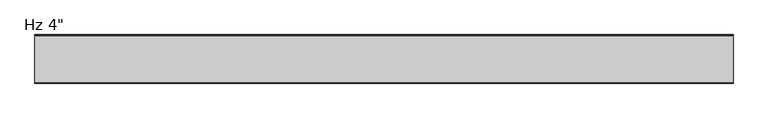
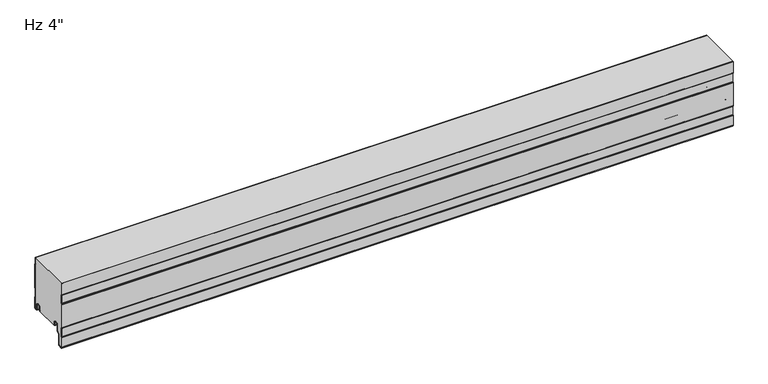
"""IFC4 building model written with IfcOpenShell, lengths in millimetres: plate geometry."""

from ifc_helpers import new_model, si_unit, point, frame, frame_2d, origin, place, context, project, spatial, polyline, circle_curve, trimmed, segment, composite_curve, outline, extrude, source, transform, mapped, element, save
from ifc_brep_helpers import plane_surface, cylinder_surface, revolved_surface, advanced_brep


def plate_19a01b62(model_context):
    return source(origin(), model_context, "Body", "SolidModel", [
        advanced_brep(
        [(-730.0, -17.0015159, 2.0313088), (-730.0, -18.0015191, 1.0313116), (-730.0, -19.0015105, 2.0313088), (-730.0, -19.0015105, 6.0315125), (-730.0, -18.0015159, 6.0315125), (-730.0, -18.0015159, 8.7237223), (-730.0, -14.7015202, 12.023718), (-730.0, -10.301529, 12.023718), (-730.0, -7.0015335, 8.7237225), (-730.0, -7.0015335, -1.6962564), (-730.0, -5.2315393, -3.4662506), (-730.0, -0.9999916, -3.4662506), (-730.0, -0.9999916, 21.034026), (-730.0, -2.2002307, 22.4196686), (-730.0, -2.2002307, 41.7948349), (-730.0, -1.0, 43.1804679), (-730.0, -1.0, 97.2338833), (-730.0, -2.2002307, 98.6195162), (-730.0, -2.2002307, 114.0), (-730.0, -1.2002307, 114.0), (-730.0, -1.2002307, 98.9923967), (-730.0, -0.3417885, 98.001349), (-730.0, 0.0, 97.0847321), (-730.0, 0.0, 43.329619), (-730.0, -0.3417885, 42.4130021), (-730.0, -1.2002307, 41.4219545), (-730.0, -1.2002307, 22.7925491), (-730.0, -0.3417885, 21.8015014), (-730.0, 0.0, 20.8847931), (-730.0, 8.4e-06, -3.0662545), (-730.0, -1.3999878, -4.4662506), (-730.0, -5.2315393, -4.4662506), (-730.0, -8.0015335, -1.6962564), (-730.0, -8.0015335, 8.7237225), (-730.0, -10.301529, 11.023718), (-730.0, -14.7015202, 11.023718), (-730.0, -17.0015159, 8.7237223), (730.0, -17.0015159, 2.0313088), (730.0, -17.0015159, 8.7237223), (730.0, -14.7015202, 11.023718), (730.0, -10.301529, 11.023718), (730.0, -8.0015335, 8.7237225), (730.0, -8.0015335, -1.6962564), (730.0, -5.2315393, -4.4662506), (730.0, -1.3999878, -4.4662506), (730.0, 8.4e-06, -3.0662545), (730.0, 8.4e-06, 20.8848845), (730.0, -0.3417885, 21.8015014), (730.0, -1.2002307, 22.7925491), (730.0, -1.2002307, 41.4219545), (730.0, -0.3417885, 42.4130021), (730.0, 0.0, 43.329619), (730.0, 0.0, 97.0847321), (730.0, -0.3417885, 98.001349), (730.0, -1.2002307, 98.9923967), (730.0, -1.2002307, 114.0), (730.0, -2.2002307, 114.0), (730.0, -2.2002307, 98.6195162), (730.0, -1.0, 97.2338833), (730.0, -1.0, 43.1804679), (730.0, -2.2002307, 41.7948349), (730.0, -2.2002307, 22.4196686), (730.0, -0.9999916, 21.034026), (730.0, -0.9999916, -3.4662506), (730.0, -5.2315393, -3.4662506), (730.0, -7.0015335, -1.6962564), (730.0, -7.0015335, 8.7237225), (730.0, -10.301529, 12.023718), (730.0, -14.7015202, 12.023718), (730.0, -18.0015159, 8.7237223), (730.0, -18.0015159, 6.0315125), (730.0, -19.0015105, 6.0315125), (730.0, -19.0015105, 2.0313088), (730.0, -18.0015192, 1.0313116)],
        [
            (0, 1, circle_curve(frame((-730.0, -18.0015132, 2.0313088), z_axis=(-1.0, 0.0, 0.0), x_axis=(0.0, 0.0, 1.0)), 0.9999973)),
            (1, 2, circle_curve(frame((-730.0, -18.0015133, 2.0313088), z_axis=(-1.0, 0.0, 0.0), x_axis=(0.0, 0.0, 1.0)), 0.9999972)),
            (2, 3),
            (3, 4),
            (4, 5),
            (5, 6, circle_curve(frame((-730.0, -14.7015202, 8.7237223), z_axis=(-1.0, 0.0, 0.0), x_axis=(0.0, 0.0, 1.0)), 3.2999957)),
            (6, 7),
            (7, 8, circle_curve(frame((-730.0, -10.301529, 8.7237225), z_axis=(-1.0, 0.0, 0.0), x_axis=(0.0, 0.0, 1.0)), 3.2999955)),
            (8, 9),
            (9, 10, circle_curve(frame((-730.0, -5.2315393, -1.6962564), z_axis=(1.0, 0.0, 0.0), x_axis=(0.0, 0.0, 1.0)), 1.7699942)),
            (10, 11),
            (11, 12),
            (12, 13),
            (13, 14),
            (14, 15),
            (15, 16),
            (16, 17),
            (17, 18),
            (18, 19),
            (19, 20),
            (20, 21),
            (21, 22, circle_curve(frame((-730.0, -1.3999972, 97.0847321), z_axis=(-1.0, 0.0, 0.0), x_axis=(0.0, 0.0, 1.0)), 1.3999972)),
            (22, 23),
            (23, 24, circle_curve(frame((-730.0, -1.3999972, 43.329619), z_axis=(-1.0, 0.0, 0.0), x_axis=(0.0, 0.0, 1.0)), 1.3999972)),
            (24, 25),
            (25, 26),
            (26, 27),
            (27, 28, circle_curve(frame((-730.0, -1.3999972, 20.8848845), z_axis=(-1.0, 0.0, 0.0), x_axis=(0.0, 0.0, 1.0)), 1.3999972)),
            (28, 29),
            (29, 30, circle_curve(frame((-730.0, -1.3999878, -3.0662545), z_axis=(-1.0, 0.0, 0.0), x_axis=(0.0, 0.0, 1.0)), 1.3999962)),
            (30, 31),
            (31, 32, circle_curve(frame((-730.0, -5.2315393, -1.6962564), z_axis=(-1.0, 0.0, 0.0), x_axis=(0.0, 0.0, 1.0)), 2.7699942)),
            (32, 33),
            (33, 34, circle_curve(frame((-730.0, -10.301529, 8.7237225), z_axis=(1.0, 0.0, 0.0), x_axis=(0.0, 0.0, 1.0)), 2.2999955)),
            (34, 35),
            (35, 36, circle_curve(frame((-730.0, -14.7015202, 8.7237223), z_axis=(1.0, 0.0, 0.0), x_axis=(0.0, 0.0, 1.0)), 2.2999957)),
            (36, 0),
            (37, 38),
            (38, 39, circle_curve(frame((730.0, -14.7015202, 8.7237223), z_axis=(-1.0, 0.0, 0.0), x_axis=(0.0, 0.0, 1.0)), 2.2999957)),
            (39, 40),
            (40, 41, circle_curve(frame((730.0, -10.301529, 8.7237225), z_axis=(-1.0, 0.0, 0.0), x_axis=(0.0, 0.0, 1.0)), 2.2999955)),
            (41, 42),
            (42, 43, circle_curve(frame((730.0, -5.2315393, -1.6962564), z_axis=(1.0, 0.0, 0.0), x_axis=(0.0, 0.0, 1.0)), 2.7699942)),
            (43, 44),
            (44, 45, circle_curve(frame((730.0, -1.3999878, -3.0662545), z_axis=(1.0, 0.0, 0.0), x_axis=(0.0, 0.0, 1.0)), 1.3999962)),
            (45, 46),
            (46, 47, circle_curve(frame((730.0, -1.3999972, 20.8848845), z_axis=(1.0, 0.0, 0.0), x_axis=(0.0, 0.0, 1.0)), 1.3999972)),
            (47, 48),
            (48, 49),
            (49, 50),
            (50, 51, circle_curve(frame((730.0, -1.3999972, 43.329619), z_axis=(1.0, 0.0, 0.0), x_axis=(0.0, 0.0, 1.0)), 1.3999972)),
            (51, 52),
            (52, 53, circle_curve(frame((730.0, -1.3999972, 97.0847321), z_axis=(1.0, 0.0, 0.0), x_axis=(0.0, 0.0, 1.0)), 1.3999972)),
            (53, 54),
            (54, 55),
            (55, 56),
            (56, 57),
            (57, 58),
            (58, 59),
            (59, 60),
            (60, 61),
            (61, 62),
            (62, 63),
            (63, 64),
            (64, 65, circle_curve(frame((730.0, -5.2315393, -1.6962564), z_axis=(-1.0, 0.0, 0.0), x_axis=(0.0, 0.0, 1.0)), 1.7699942)),
            (65, 66),
            (66, 67, circle_curve(frame((730.0, -10.301529, 8.7237225), z_axis=(1.0, 0.0, 0.0), x_axis=(0.0, 0.0, 1.0)), 3.2999955)),
            (67, 68),
            (68, 69, circle_curve(frame((730.0, -14.7015202, 8.7237223), z_axis=(1.0, 0.0, 0.0), x_axis=(0.0, 0.0, 1.0)), 3.2999957)),
            (69, 70),
            (70, 71),
            (71, 72),
            (72, 73, circle_curve(frame((730.0, -18.0015133, 2.0313088), z_axis=(1.0, 0.0, 0.0), x_axis=(0.0, 0.0, 1.0)), 0.9999972)),
            (73, 37, circle_curve(frame((730.0, -18.0015132, 2.0313088), z_axis=(1.0, 0.0, 0.0), x_axis=(0.0, 0.0, 1.0)), 0.9999973)),
            (18, 56),
            (55, 19),
            (36, 38),
            (37, 0),
            (35, 39),
            (34, 40),
            (33, 41),
            (32, 42),
            (31, 43),
            (30, 44),
            (29, 45),
            (28, 46),
            (27, 47),
            (26, 48),
            (25, 49),
            (24, 50),
            (23, 51),
            (22, 52),
            (21, 53),
            (20, 54),
            (17, 57),
            (16, 58),
            (15, 59),
            (14, 60),
            (13, 61),
            (12, 62),
            (11, 63),
            (10, 64),
            (9, 65),
            (8, 66),
            (7, 67),
            (6, 68),
            (5, 69),
            (4, 70),
            (3, 71),
            (2, 72),
            (1, 73),
        ],
        [
            plane_surface(frame((-730.0, 0.0, 381.0), z_axis=(-1.0, 0.0, 0.0), x_axis=(0.0, 1.0, 0.0))),
            plane_surface(frame((730.0, 0.0, 381.0), z_axis=(1.0, 0.0, 0.0), x_axis=(0.0, 1.0, 0.0))),
            plane_surface(frame((730.0, 10.0, 114.0), z_axis=(0.0, 0.0, 1.0), x_axis=(-1.0, 0.0, 0.0))),
            plane_surface(frame((-730.0, -17.0015159, 2.0313088), z_axis=(0.0, 1.0, 0.0), x_axis=(1.0, 0.0, 0.0))),
            revolved_surface(polyline([(730.0, -14.7015202, 11.023718), (-730.0, -14.7015202, 11.023718)]), (-730.0, -14.7015202, 8.7237223), (1.0, 0.0, 0.0)),
            plane_surface(frame((-730.0, -14.7015202, 11.023718), z_axis=(0.0, 0.0, -1.0), x_axis=(1.0, 0.0, 0.0))),
            revolved_surface(polyline([(730.0, -10.301529, 11.023717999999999), (-730.0, -10.301529, 11.023717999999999)]), (-730.0, -10.301529, 8.7237225), (1.0, 0.0, 0.0)),
            plane_surface(frame((-730.0, -8.0015335, 8.7237225), z_axis=(0.0, -1.0, 0.0), x_axis=(1.0, 0.0, 0.0))),
            cylinder_surface(frame((-730.0, -5.2315393, -1.6962564), z_axis=(-1.0, 0.0, 0.0), x_axis=(0.0, 0.0, 1.0)), 2.7699942),
            plane_surface(frame((-730.0, -5.2315393, -4.4662506), z_axis=(0.0, 0.0, -1.0), x_axis=(1.0, 0.0, 0.0))),
            cylinder_surface(frame((-730.0, -1.3999878, -3.0662545), z_axis=(-1.0, 0.0, 0.0), x_axis=(0.0, 0.0, 1.0)), 1.3999962),
            plane_surface(frame((-730.0, 8.4e-06, -3.0662545), z_axis=(0.0, 1.0, 0.0), x_axis=(1.0, 0.0, 0.0))),
            cylinder_surface(frame((-730.0, -1.3999972, 20.8848845), z_axis=(-1.0, 0.0, 0.0), x_axis=(0.0, 0.0, 1.0)), 1.3999972),
            plane_surface(frame((-730.0, -0.3417885, 21.8015014), z_axis=(0.0, 0.755864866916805, 0.6547276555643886), x_axis=(1.0, 0.0, 0.0))),
            plane_surface(frame((-730.0, -1.2002307, 32.1072518), z_axis=(0.0, 1.0, 0.0), x_axis=(1.0, 0.0, 0.0))),
            plane_surface(frame((-730.0, -1.2002307, 41.4219545), z_axis=(0.0, 0.755864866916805, -0.6547276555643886), x_axis=(1.0, 0.0, 0.0))),
            cylinder_surface(frame((-730.0, -1.3999972, 43.329619), z_axis=(-1.0, 0.0, 0.0), x_axis=(0.0, 0.0, 1.0)), 1.3999972),
            plane_surface(frame((-730.0, 0.0, 43.329619), z_axis=(0.0, 1.0, 0.0), x_axis=(1.0, 0.0, 0.0))),
            cylinder_surface(frame((-730.0, -1.3999972, 97.0847321), z_axis=(-1.0, 0.0, 0.0), x_axis=(0.0, 0.0, 1.0)), 1.3999972),
            plane_surface(frame((-730.0, -0.3417885, 98.001349), z_axis=(0.0, 0.755864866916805, 0.6547276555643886), x_axis=(1.0, 0.0, 0.0))),
            plane_surface(frame((-730.0, -1.2002307, 108.3070994), z_axis=(0.0, 1.0, 0.0), x_axis=(1.0, 0.0, 0.0))),
            plane_surface(frame((-730.0, -2.2002307, 117.9946825), z_axis=(0.0, -1.0, 0.0), x_axis=(1.0, 0.0, 0.0))),
            plane_surface(frame((-730.0, -2.2002307, 98.6195162), z_axis=(0.0, -0.755864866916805, -0.6547276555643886), x_axis=(1.0, 0.0, 0.0))),
            plane_surface(frame((-730.0, -1.0, 97.2338833), z_axis=(0.0, -1.0, 0.0), x_axis=(1.0, 0.0, 0.0))),
            plane_surface(frame((-730.0, -1.0, 43.1804679), z_axis=(0.0, -0.755864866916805, 0.6547276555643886), x_axis=(1.0, 0.0, 0.0))),
            plane_surface(frame((-730.0, -2.2002307, 41.7948349), z_axis=(0.0, -1.0, 0.0), x_axis=(1.0, 0.0, 0.0))),
            plane_surface(frame((-730.0, -2.2002307, 22.4196686), z_axis=(0.0, -0.755864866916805, -0.6547276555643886), x_axis=(1.0, 0.0, 0.0))),
            plane_surface(frame((-730.0, -0.9999916, 21.034026), z_axis=(0.0, -1.0, 0.0), x_axis=(1.0, 0.0, 0.0))),
            plane_surface(frame((-730.0, -0.9999916, -3.4662506), z_axis=(0.0, 0.0, 1.0), x_axis=(1.0, 0.0, 0.0))),
            revolved_surface(polyline([(730.0, -5.2315393, 0.07373779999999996), (-730.0, -5.2315393, 0.07373779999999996)]), (-730.0, -5.2315393, -1.6962564), (1.0, 0.0, 0.0)),
            plane_surface(frame((-730.0, -7.0015335, -1.6962564), z_axis=(0.0, 1.0, 0.0), x_axis=(1.0, 0.0, 0.0))),
            cylinder_surface(frame((-730.0, -10.301529, 8.7237225), z_axis=(-1.0, 0.0, 0.0), x_axis=(0.0, 0.0, 1.0)), 3.2999955),
            plane_surface(frame((-730.0, -10.301529, 12.023718), z_axis=(0.0, 0.0, 1.0), x_axis=(1.0, 0.0, 0.0))),
            cylinder_surface(frame((-730.0, -14.7015202, 8.7237223), z_axis=(-1.0, 0.0, 0.0), x_axis=(0.0, 0.0, 1.0)), 3.2999957),
            plane_surface(frame((-730.0, -18.0015159, 8.7237223), z_axis=(0.0, -1.0, 0.0), x_axis=(1.0, 0.0, 0.0))),
            plane_surface(frame((-730.0, -18.0015159, 6.0315125), z_axis=(0.0, 0.0, 1.0), x_axis=(1.0, 0.0, 0.0))),
            plane_surface(frame((-730.0, -19.0015105, 6.0315125), z_axis=(0.0, -1.0, 0.0), x_axis=(1.0, 0.0, 0.0))),
            cylinder_surface(frame((-730.0, -18.0015133, 2.0313088), z_axis=(-1.0, 0.0, 0.0), x_axis=(0.0, 0.0, 1.0)), 0.9999972),
            cylinder_surface(frame((-730.0, -18.0015132, 2.0313088), z_axis=(-1.0, 0.0, 0.0), x_axis=(0.0, 0.0, 1.0)), 0.9999973),
        ],
        [
            (0, [[1, 2, 3, 4, 5, 6, 7, 8, 9, 10, 11, 12, 13, 14, 15, 16, 17, 18, 19, 20, 21, 22, 23, 24, 25, 26, 27, 28, 29, 30, 31, 32, 33, 34, 35, 36, 37]]),
            (1, [[38, 39, 40, 41, 42, 43, 44, 45, 46, 47, 48, 49, 50, 51, 52, 53, 54, 55, 56, 57, 58, 59, 60, 61, 62, 63, 64, 65, 66, 67, 68, 69, 70, 71, 72, 73, 74]]),
            (2, [[75, -56, 76, -19]]),
            (3, [[77, -38, 78, -37]]),
            (4, [[79, -39, -77, -36]]),
            (5, [[80, -40, -79, -35]]),
            (6, [[81, -41, -80, -34]]),
            (7, [[82, -42, -81, -33]]),
            (8, [[83, -43, -82, -32]]),
            (9, [[84, -44, -83, -31]]),
            (10, [[85, -45, -84, -30]]),
            (11, [[86, -46, -85, -29]]),
            (12, [[87, -47, -86, -28]]),
            (13, [[88, -48, -87, -27]]),
            (14, [[89, -49, -88, -26]]),
            (15, [[90, -50, -89, -25]]),
            (16, [[91, -51, -90, -24]]),
            (17, [[92, -52, -91, -23]]),
            (18, [[93, -53, -92, -22]]),
            (19, [[94, -54, -93, -21]]),
            (20, [[-20, -76, -55, -94]]),
            (21, [[-57, -75, -18, 95]]),
            (22, [[96, -58, -95, -17]]),
            (23, [[97, -59, -96, -16]]),
            (24, [[98, -60, -97, -15]]),
            (25, [[99, -61, -98, -14]]),
            (26, [[100, -62, -99, -13]]),
            (27, [[101, -63, -100, -12]]),
            (28, [[102, -64, -101, -11]]),
            (29, [[103, -65, -102, -10]]),
            (30, [[104, -66, -103, -9]]),
            (31, [[105, -67, -104, -8]]),
            (32, [[106, -68, -105, -7]]),
            (33, [[107, -69, -106, -6]]),
            (34, [[108, -70, -107, -5]]),
            (35, [[109, -71, -108, -4]]),
            (36, [[110, -72, -109, -3]]),
            (37, [[111, -73, -110, -2]]),
            (38, [[-78, -74, -111, -1]]),
        ],
    ),
        extrude(outline(composite_curve([segment(trimmed(circle_curve(frame_2d((-100.1998717, -10.6415934)), 1.3998661), [point((-101.5997378, -10.6415934))], [point((-101.1324955, -9.5976403))], False, "CARTESIAN"), True, "CONTINUOUS"), segment(polyline([(-101.1324955, -9.5976403), (-100.3997693, -8.8649141), (-100.3997693, 10.0260713), (-101.1327349, 10.7590369)]), True, "CONTINUOUS"), segment(trimmed(circle_curve(frame_2d((-100.2000237, 11.8030877)), 1.3999972), [point((-101.1327349, 10.7590369))], [point((-101.6, 11.810741))], False, "CARTESIAN"), True, "CONTINUOUS"), segment(polyline([(-101.6, 11.810741), (-101.6, 65.5582542)]), True, "CONTINUOUS"), segment(trimmed(circle_curve(frame_2d((-100.2000028, 65.5582542)), 1.3999972), [point((-101.6, 65.5582542))], [point((-101.132714, 66.602305))], False, "CARTESIAN"), True, "CONTINUOUS"), segment(polyline([(-101.132714, 66.602305), (-100.3997693, 67.3352497), (-100.3997693, 86.2259189), (-101.1327349, 86.9588845)]), True, "CONTINUOUS"), segment(trimmed(circle_curve(frame_2d((-100.2000237, 88.0029353)), 1.3999972), [point((-101.1327349, 86.9588845))], [point((-101.6, 88.0105886))], False, "CARTESIAN"), True, "CONTINUOUS"), segment(polyline([(-101.6, 88.0105886), (-101.6, 114.0), (-100.6, 114.0), (-100.6, 87.8405213), (-99.3997693, 86.6402905), (-99.3997693, 66.920878), (-100.6, 65.7206473), (-100.6, 11.6405156), (-99.3997693, 10.4402849), (-99.3997693, -9.2791277), (-100.5997378, -10.4790962), (-100.5997378, -32.4521176)]), True, "CONTINUOUS"), segment(trimmed(circle_curve(frame_2d((-98.0294985, -32.4521176)), 2.5702393), [point((-100.5997378, -32.4521176))], [point((-97.8054129, -35.0125699))], True, "CARTESIAN"), True, "CONTINUOUS"), segment(polyline([(-97.8054129, -35.0125699), (-92.823592, -34.5765709)]), True, "CONTINUOUS"), segment(trimmed(circle_curve(frame_2d((-93.3049826, -31.9198392)), 2.6999926), [point((-92.823592, -34.5765709))], [point((-90.60499, -31.9198392))], True, "CARTESIAN"), True, "CONTINUOUS"), segment(polyline([(-90.60499, -31.9198392), (-90.60499, -9.8247096), (-85.1029189, -4.3226385)]), True, "CONTINUOUS"), segment(trimmed(circle_curve(frame_2d((-86.3049966, -3.1205608)), 1.6999946), [point((-85.1029189, -4.3226385))], [point((-84.605002, -3.1205608))], True, "CARTESIAN"), True, "CONTINUOUS"), segment(polyline([(-84.605002, -3.1205608), (-84.605002, 8.6903283)]), True, "CONTINUOUS"), segment(trimmed(circle_curve(frame_2d((-81.2550067, 8.6903283)), 3.3499953), [point((-84.605002, 8.6903283))], [point((-81.2550067, 12.0403236))], False, "CARTESIAN"), True, "CONTINUOUS"), segment(polyline([(-81.2550067, 12.0403236), (-76.8550155, 12.0403236)]), True, "CONTINUOUS"), segment(trimmed(circle_curve(frame_2d((-76.8550155, 8.6903283)), 3.3499953), [point((-76.8550155, 12.0403236))], [point((-73.5050202, 8.6903283))], False, "CARTESIAN"), True, "CONTINUOUS"), segment(polyline([(-73.5050202, 8.6903283), (-73.5050202, 5.9912173), (-72.1065413, 5.9912173), (-72.1065413, 2.2328239)]), True, "CONTINUOUS"), segment(trimmed(circle_curve(frame_2d((-73.306538, 2.2313092)), 1.1999976), [point((-72.1065413, 2.2328239))], [point((-73.2760161, 1.0316999))], False, "CARTESIAN"), True, "CONTINUOUS"), segment(trimmed(circle_curve(frame_2d((-73.306538, 2.2313092)), 1.1999976), [point((-73.2760161, 1.0316999))], [point((-74.5050202, 2.1710221))], False, "CARTESIAN"), True, "CONTINUOUS"), segment(polyline([(-74.5050202, 2.1710221), (-74.5050202, 8.6903283)]), True, "CONTINUOUS"), segment(trimmed(circle_curve(frame_2d((-76.8550155, 8.6903283)), 2.3499953), [point((-74.5050202, 8.6903283))], [point((-76.8550155, 11.0403236))], True, "CARTESIAN"), True, "CONTINUOUS"), segment(polyline([(-76.8550155, 11.0403236), (-81.2550067, 11.0403236)]), True, "CONTINUOUS"), segment(trimmed(circle_curve(frame_2d((-81.2550067, 8.6903283)), 2.3499953), [point((-81.2550067, 11.0403236))], [point((-83.605002, 8.6903283))], True, "CARTESIAN"), True, "CONTINUOUS"), segment(polyline([(-83.605002, 8.6903283), (-83.605002, -3.1205608)]), True, "CONTINUOUS"), segment(trimmed(circle_curve(frame_2d((-86.3049966, -3.1205608)), 2.6999946), [point((-83.605002, -3.1205608))], [point((-84.3958121, -5.0297453))], False, "CARTESIAN"), True, "CONTINUOUS"), segment(polyline([(-84.3958121, -5.0297453), (-89.2242296, -9.8581627)]), True, "CONTINUOUS"), segment(trimmed(circle_curve(frame_2d((-88.3049926, -10.7773997)), 1.2999974), [point((-89.2242296, -9.8581627))], [point((-89.60499, -10.7773997))], True, "CARTESIAN"), True, "CONTINUOUS"), segment(polyline([(-89.60499, -10.7773997), (-89.60499, -31.9198392)]), True, "CONTINUOUS"), segment(trimmed(circle_curve(frame_2d((-93.3049826, -31.9198392)), 3.6999926), [point((-89.60499, -31.9198392))], [point((-92.6941815, -35.5690675))], False, "CARTESIAN"), True, "CONTINUOUS"), segment(polyline([(-92.6941815, -35.5690675), (-97.7182281, -36.008762)]), True, "CONTINUOUS"), segment(trimmed(circle_curve(frame_2d((-98.0294985, -32.4521176)), 3.5702393), [point((-97.7182281, -36.008762))], [point((-101.5997378, -32.4521176))], False, "CARTESIAN"), True, "CONTINUOUS"), segment(polyline([(-101.5997378, -32.4521176), (-101.5997378, -10.6415934)]), True, "CONTINUOUS")], self_intersect=False)), frame((-730.0, 0.0, 0.0), z_axis=(1.0, 0.0, 0.0), x_axis=(0.0, 1.0, 0.0)), (0.0, 0.0, 1.0), 1460.0),
        extrude(outline(composite_curve([segment(trimmed(circle_curve(frame_2d((-73.306538, 2.2313092)), 1.1999976), [point((-73.2760161, 1.0316999))], [point((-72.1065413, 2.2328239))], True, "CARTESIAN"), True, "CONTINUOUS"), segment(polyline([(-72.1065413, 2.2328239), (-72.1065413, 5.9912173), (-73.5050202, 5.9912173), (-73.5050202, 8.6903283)]), True, "CONTINUOUS"), segment(trimmed(circle_curve(frame_2d((-76.8550155, 8.6903283)), 3.3499953), [point((-73.5050202, 8.6903283))], [point((-76.8550155, 12.0403236))], True, "CARTESIAN"), True, "CONTINUOUS"), segment(polyline([(-76.8550155, 12.0403236), (-81.2550067, 12.0403236)]), True, "CONTINUOUS"), segment(trimmed(circle_curve(frame_2d((-81.2550067, 8.6903283)), 3.3499953), [point((-81.2550067, 12.0403236))], [point((-84.605002, 8.6903283))], True, "CARTESIAN"), True, "CONTINUOUS"), segment(polyline([(-84.605002, 8.6903283), (-84.605002, -3.1205608)]), True, "CONTINUOUS"), segment(trimmed(circle_curve(frame_2d((-86.3049966, -3.1205608)), 1.6999946), [point((-84.605002, -3.1205608))], [point((-85.1029189, -4.3226385))], False, "CARTESIAN"), True, "CONTINUOUS"), segment(polyline([(-85.1029189, -4.3226385), (-90.60499, -9.8247096), (-90.60499, -31.9198392)]), True, "CONTINUOUS"), segment(trimmed(circle_curve(frame_2d((-93.3049826, -31.9198392)), 2.6999926), [point((-90.60499, -31.9198392))], [point((-92.823592, -34.5765709))], False, "CARTESIAN"), True, "CONTINUOUS"), segment(polyline([(-92.823592, -34.5765709), (-97.8054129, -35.0125699)]), True, "CONTINUOUS"), segment(trimmed(circle_curve(frame_2d((-98.0294985, -32.4521176)), 2.5702393), [point((-97.8054129, -35.0125699))], [point((-100.5997378, -32.4521176))], False, "CARTESIAN"), True, "CONTINUOUS"), segment(polyline([(-100.5997378, -32.4521176), (-100.5997378, -10.4790962), (-99.3997693, -9.2791277), (-99.3997693, 10.4402849), (-100.6, 11.6405156), (-100.6, 65.7206473), (-99.3997693, 66.920878), (-99.3997693, 86.6402905), (-100.6, 87.8405213), (-100.6, 114.0), (-2.2002307, 114.0), (-2.2002307, 98.6195163), (-1.0, 97.2338833), (-1.0, 43.1804679), (-2.2002307, 41.794835), (-2.2002307, 22.4196687), (-0.9999916, 21.034026), (-0.9999916, -3.4662506), (-5.2315389, -3.4662506)]), True, "CONTINUOUS"), segment(trimmed(circle_curve(frame_2d((-5.2315389, -1.6962564)), 1.7699942), [point((-5.2315389, -3.4662506))], [point((-7.0015331, -1.6962564))], False, "CARTESIAN"), True, "CONTINUOUS"), segment(polyline([(-7.0015331, -1.6962564), (-7.0015331, 8.7237222)]), True, "CONTINUOUS"), segment(trimmed(circle_curve(frame_2d((-10.301529, 8.7237222)), 3.2999959), [point((-7.0015331, 8.7237222))], [point((-10.301529, 12.023718))], True, "CARTESIAN"), True, "CONTINUOUS"), segment(polyline([(-10.301529, 12.023718), (-14.7015202, 12.023718)]), True, "CONTINUOUS"), segment(trimmed(circle_curve(frame_2d((-14.7015202, 8.7237223)), 3.2999957), [point((-14.7015202, 12.023718))], [point((-18.0015159, 8.7237223))], True, "CARTESIAN"), True, "CONTINUOUS"), segment(polyline([(-18.0015159, 8.7237223), (-18.0015159, 6.0315125), (-19.0015105, 6.0315125), (-19.0015105, 2.0313089)]), True, "CONTINUOUS"), segment(trimmed(circle_curve(frame_2d((-18.0015133, 2.0313089)), 0.9999972), [point((-19.0015105, 2.0313089))], [point((-18.0015192, 1.0313117))], True, "CARTESIAN"), True, "CONTINUOUS"), segment(polyline([(-18.0015192, 1.0313117), (-19.0328308, 0.0), (-72.2443162, 0.0), (-73.2760161, 1.0316999)]), True, "CONTINUOUS")], self_intersect=False)), frame((-730.0, 0.0, 0.0), z_axis=(1.0, 0.0, 0.0), x_axis=(0.0, 1.0, 0.0)), (0.0, 0.0, 1.0), 1460.0),
    ])


if __name__ == "__main__":
    model = new_model("IFC4")
    model_context = context("Model", 3, world=origin())
    ifc_project = project(units=[si_unit("LENGTHUNIT", "METRE", prefix="MILLI")], contexts=[model_context])
    site = spatial("IfcSite", under=ifc_project)
    building = spatial("IfcBuilding", under=site)
    placement = place(None, origin())
    plate_shape = plate_19a01b62(model_context)
    element("IfcPlate", 1, ObjectType="KIP-30-Karrier-KP-R19-CP-Hz-SL_SL : Hz 4\"", at=placement, inside=building, context=model_context, shape_type="MappedRepresentation", body=[
        mapped(plate_shape, transform((0.0, 0.0, 0.0), x_axis=(1.0, 0.0, 0.0), y_axis=(0.0, 1.0, 0.0), z_axis=(0.0, 0.0, 1.0))),
    ])
    save(model, "model.ifc")
